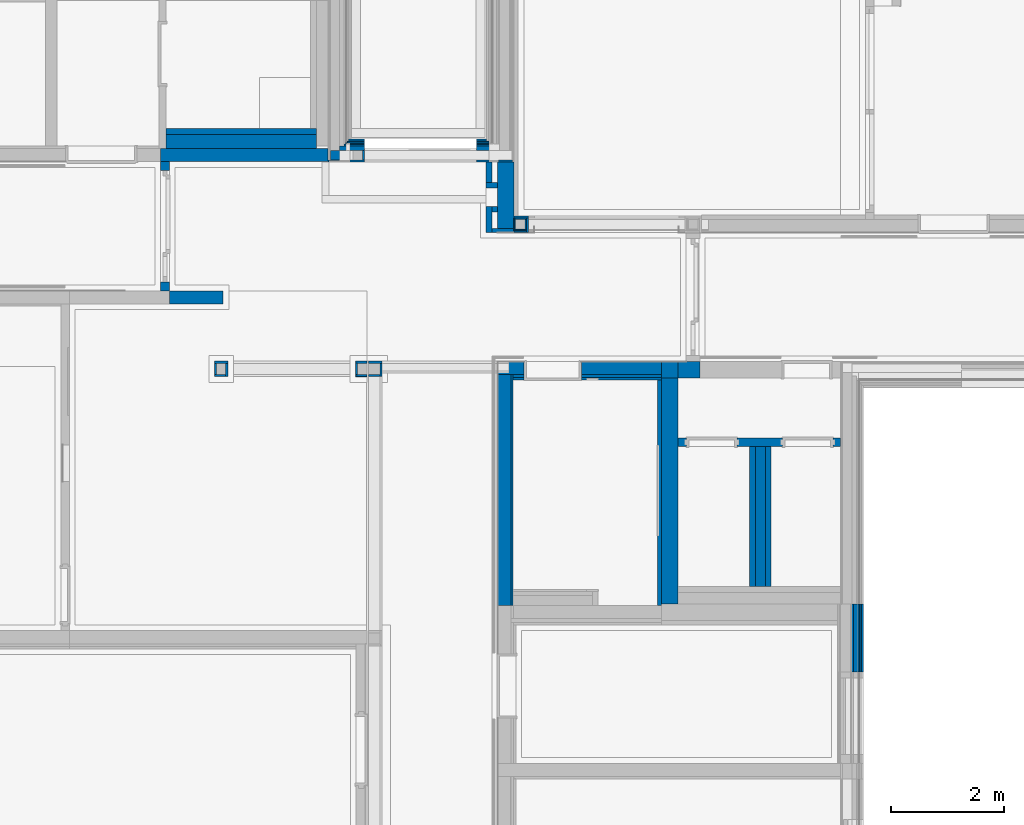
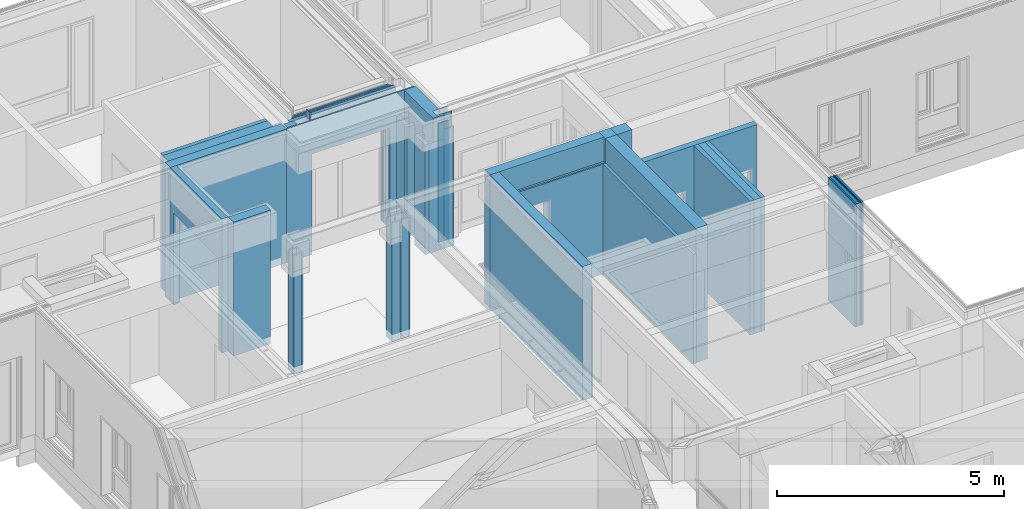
# One storey, part 31 of 207: 55 walls, 13 openings.
"""IFC4 building model written with IfcOpenShell, lengths in metres."""

from ifc_helpers import new_model, entity, si_unit, converted_unit, derived_unit, frame, frame_2d, origin, origin_with_axes, place, context, subcontext, project, spatial, polyline, rectangle, outline, extrude, clip, bounded_halfspace, material, element, save


model = new_model("IFC4")

# Units and contexts
model_context = context("Model", 3, precision=1e-05, world=origin())
body_context = subcontext(model_context, "Body", "Model", "MODEL_VIEW")
ifc_project = project(units=[si_unit("LENGTHUNIT", "METRE"), si_unit("AREAUNIT", "SQUARE_METRE"), si_unit("VOLUMEUNIT", "CUBIC_METRE"), si_unit("MASSUNIT", "GRAM", prefix="KILO"), converted_unit("PLANEANGLEUNIT", "DEGREE", entity("IfcPlaneAngleMeasure", 0.0174532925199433), si_unit("PLANEANGLEUNIT", "RADIAN"), dimensions=[0, 0, 0, 0, 0, 0, 0]), derived_unit("THERMALTRANSMITTANCEUNIT", [(si_unit("POWERUNIT", "WATT"), 1), (si_unit("THERMODYNAMICTEMPERATUREUNIT", "KELVIN"), -1), (si_unit("LENGTHUNIT", "METRE"), -2)]), derived_unit("VOLUMETRICFLOWRATEUNIT", [(si_unit("LENGTHUNIT", "METRE"), 3), (converted_unit("TIMEUNIT", "hour", entity("IfcTimeMeasure", 3600.0), si_unit("TIMEUNIT", "SECOND"), dimensions=[0, 0, 1, 0, 0, 0, 0]), -1), (si_unit("LENGTHUNIT", "METRE"), -1)])], contexts=[model_context])

# Site, building, storey
site_placement = place(None, origin())
site = spatial("IfcSite", under=ifc_project, at=site_placement, Name="Psychiatrie Neubau Wunstorf", CompositionType="ELEMENT")
building_placement = place(site_placement, origin())
building = spatial("IfcBuilding", under=site, at=building_placement, Name="Neubau H2 Stationsgebäude", CompositionType="ELEMENT")
storey_placement = place(building_placement, frame((0.0, 0.0, -0.2)))
storey = spatial("IfcBuildingStorey", under=building, at=storey_placement, Name="H2 Ebene 0", CompositionType="ELEMENT", Elevation=-0.2)

# Wall
ifc_material_1 = material(Name="WA-LB")
wall_1_placement = place(storey_placement, frame((37.8935, 24.1140036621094, 0.5)))
element("IfcWall", 1, at=wall_1_placement, inside=storey, material=ifc_material_1, context=body_context, shape_type="SweptSolid", body=[
    extrude(rectangle(XDim=0.254, YDim=0.036, at=frame_2d((0.127, 0.018), x_axis=(1.0, 0.0))), origin_with_axes(), (0.0, 0.0, 1.0), 3.1),
])

# Wall, opening
ifc_material_2 = material(Name="WA-LB")
wall_2_placement = place(storey_placement, frame((34.889, 24.1140036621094, 0.0)))
wall_2 = element("IfcWall", 2, at=wall_2_placement, inside=storey, material=ifc_material_2, context=body_context, shape_type="SweptSolid", body=[
    extrude(rectangle(XDim=3.0045, YDim=0.036, at=frame_2d((1.50225, 0.018), x_axis=(1.0, 0.0))), origin_with_axes(), (0.0, 0.0, 1.0), 3.6),
])
opening_1_placement = place(wall_2_placement, frame((0.637001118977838, 0.0, 0.0), z_axis=(0.0, 1.0, 0.0), x_axis=(0.0, 0.0, 1.0)))
element("IfcOpeningElement", 3, at=opening_1_placement, cuts=wall_2, Name="Türöffnung", ObjectType="Opening", context=body_context, shape_type="SweptSolid", body=[
    extrude(outline(polyline([(2.7, 1.98299888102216), (2.7, 0.0), (0.0, 0.0), (0.0, 1.98299888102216), (2.7, 1.98299888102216)])), origin_with_axes(), (0.0, 0.0, 1.0), 0.036),
])

ifc_material_3 = material(Name="WA-HD")
wall_3_placement = place(storey_placement, frame((34.925, 24.1500036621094, 0.0)))
wall_3 = element("IfcWall", 4, at=wall_3_placement, inside=storey, material=ifc_material_3, context=body_context, shape_type="Clipping", body=[
    clip(clip(clip(extrude(rectangle(XDim=2.9685, YDim=0.16, at=frame_2d((1.48425, 0.08), x_axis=(1.0, 0.0))), origin_with_axes(), (0.0, 0.0, 1.0), 3.6), bounded_halfspace(frame((0.3275, 0.0799995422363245, 3.2), z_axis=(0.0, 0.0, -1.0), x_axis=(-0.999999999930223, -1.18132561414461e-05, 0.0)), True, origin_with_axes(), polyline([(0.405, 0.16), (0.25, 0.159998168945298), (0.25, 0.0), (0.405, 0.0), (0.405, 0.16)]))), bounded_halfspace(frame((1.78475, 0.0799993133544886, 3.2), z_axis=(0.0, 0.0, -1.0), x_axis=(1.0, 0.0, 0.0)), True, origin_with_axes(), polyline([(0.601, 0.0), (2.9685, 0.0), (2.9685, 0.159998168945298), (0.601, 0.159999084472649), (0.601, 0.0)]))), bounded_halfspace(frame((0.503, 0.08, 0.5), z_axis=(0.0, 0.0, -1.0), x_axis=(-1.0, 0.0, 0.0)), True, origin_with_axes(), polyline([(0.601, 0.16), (0.405, 0.16), (0.405, 0.0), (0.601, 0.0), (0.601, 0.16)]))),
])
opening_2_placement = place(wall_3_placement, frame((0.601001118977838, 0.0, 0.0), z_axis=(0.0, 1.0, 0.0), x_axis=(0.0, 0.0, 1.0)))
element("IfcOpeningElement", 5, at=opening_2_placement, cuts=wall_3, Name="Türöffnung", ObjectType="Opening", context=body_context, shape_type="SweptSolid", body=[
    extrude(outline(polyline([(2.7, 1.98299888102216), (2.7, 0.0), (0.0, 0.0), (0.0, 1.98299888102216), (2.7, 1.98299888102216)])), origin_with_axes(), (0.0, 0.0, 1.0), 0.16),
])

ifc_material_4 = material(Name="WA-DL")
wall_4_placement = place(storey_placement, frame((35.085, 24.3100036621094, 0.0)))
wall_4 = element("IfcWall", 6, at=wall_4_placement, inside=storey, material=ifc_material_4, context=body_context, shape_type="SweptSolid", body=[
    extrude(rectangle(XDim=2.6925, YDim=0.08, at=frame_2d((1.34625, 0.04), x_axis=(1.0, 0.0))), origin_with_axes(), (0.0, 0.0, 1.0), 3.6),
])
opening_3_placement = place(wall_4_placement, frame((0.441001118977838, 0.0, 0.0), z_axis=(0.0, 1.0, 0.0), x_axis=(0.0, 0.0, 1.0)))
element("IfcOpeningElement", 7, at=opening_3_placement, cuts=wall_4, Name="Türöffnung", ObjectType="Opening", context=body_context, shape_type="SweptSolid", body=[
    extrude(outline(polyline([(2.7, 1.98299888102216), (2.7, 0.0), (0.0, 0.0), (0.0, 1.98299888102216), (2.7, 1.98299888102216)])), origin_with_axes(), (0.0, 0.0, 1.0), 0.08),
])

ifc_material_5 = material(Name="WA-TP")
wall_5_placement = place(storey_placement, frame((35.165, 24.3900036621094, 0.0)))
wall_5 = element("IfcWall", 8, at=wall_5_placement, inside=storey, material=ifc_material_5, context=body_context, shape_type="SweptSolid", body=[
    extrude(rectangle(XDim=2.6125, YDim=0.036, at=frame_2d((1.30625, 0.018), x_axis=(1.0, 0.0))), origin_with_axes(), (0.0, 0.0, 1.0), 3.6),
])
opening_4_placement = place(wall_5_placement, frame((0.361001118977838, 0.0, 0.0), z_axis=(0.0, 1.0, 0.0), x_axis=(0.0, 0.0, 1.0)))
element("IfcOpeningElement", 9, at=opening_4_placement, cuts=wall_5, Name="Türöffnung", ObjectType="Opening", context=body_context, shape_type="SweptSolid", body=[
    extrude(outline(polyline([(2.7, 1.98299888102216), (2.7, 0.0), (0.0, 0.0), (0.0, 1.98299888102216), (2.7, 1.98299888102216)])), origin_with_axes(), (0.0, 0.0, 1.0), 0.036),
])

ifc_material_6 = material(Name="WA-KL")
wall_6_placement = place(storey_placement, frame((35.201, 24.4260036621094, 0.0)))
wall_6 = element("IfcWall", 10, at=wall_6_placement, inside=storey, material=ifc_material_6, context=body_context, shape_type="SweptSolid", body=[
    extrude(rectangle(XDim=2.5265, YDim=0.024, at=frame_2d((1.26325, 0.012), x_axis=(1.0, 0.0))), origin_with_axes(), (0.0, 0.0, 1.0), 3.6),
])
opening_5_placement = place(wall_6_placement, frame((0.325001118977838, 0.0, 0.0), z_axis=(0.0, 1.0, 0.0), x_axis=(0.0, 0.0, 1.0)))
element("IfcOpeningElement", 11, at=opening_5_placement, cuts=wall_6, Name="Türöffnung", ObjectType="Opening", context=body_context, shape_type="SweptSolid", body=[
    extrude(outline(polyline([(2.7, 1.98299888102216), (2.7, 0.0), (0.0, 0.0), (0.0, 1.98299888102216), (2.7, 1.98299888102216)])), origin_with_axes(), (0.0, 0.0, 1.0), 0.024),
])

ifc_material_7 = material(Name="WA-TL")
wall_7_placement = place(storey_placement, frame((35.225, 24.4500036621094, 0.0)))
wall_7 = element("IfcWall", 12, at=wall_7_placement, inside=storey, material=ifc_material_7, context=body_context, shape_type="SweptSolid", body=[
    extrude(rectangle(XDim=2.5025, YDim=0.024, at=frame_2d((1.25125, 0.012), x_axis=(1.0, 0.0))), origin_with_axes(), (0.0, 0.0, 1.0), 3.6),
])
opening_6_placement = place(wall_7_placement, frame((0.301001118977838, 0.0, 0.0), z_axis=(0.0, 1.0, 0.0), x_axis=(0.0, 0.0, 1.0)))
element("IfcOpeningElement", 13, at=opening_6_placement, cuts=wall_7, Name="Türöffnung", ObjectType="Opening", context=body_context, shape_type="SweptSolid", body=[
    extrude(outline(polyline([(2.7, 1.98299888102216), (2.7, 0.0), (0.0, 0.0), (0.0, 1.98299888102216), (2.7, 1.98299888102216)])), origin_with_axes(), (0.0, 0.0, 1.0), 0.024),
])

ifc_material_8 = material(Name="WA-HS")
wall_8_placement = place(storey_placement, frame((35.249, 24.4740036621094, 0.0)))
wall_8 = element("IfcWall", 14, at=wall_8_placement, inside=storey, material=ifc_material_8, context=body_context, shape_type="SweptSolid", body=[
    extrude(rectangle(XDim=2.4365, YDim=0.042, at=frame_2d((1.21825, 0.021), x_axis=(1.0, 0.0))), origin_with_axes(), (0.0, 0.0, 1.0), 3.6),
])
opening_7_placement = place(wall_8_placement, frame((0.277001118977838, 0.0, 0.0), z_axis=(0.0, 1.0, 0.0), x_axis=(0.0, 0.0, 1.0)))
element("IfcOpeningElement", 15, at=opening_7_placement, cuts=wall_8, Name="Türöffnung", ObjectType="Opening", context=body_context, shape_type="SweptSolid", body=[
    extrude(outline(polyline([(2.7, 1.98299888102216), (2.7, 0.0), (0.0, 0.0), (0.0, 1.98299888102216), (2.7, 1.98299888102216)])), origin_with_axes(), (0.0, 0.0, 1.0), 0.042),
])

# Walls
ifc_material_9 = material(Name="WI-GKF")
wall_9_placement = place(storey_placement, frame((35.49, 24.3100036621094, 0.5), z_axis=(0.0, 0.0, 1.0), x_axis=(0.0, -1.0, 0.0)))
element("IfcWall", 16, at=wall_9_placement, inside=storey, material=ifc_material_9, context=body_context, shape_type="SweptSolid", body=[
    extrude(rectangle(XDim=0.16, YDim=0.036, at=frame_2d((0.08, 0.018), x_axis=(1.0, 0.0))), origin_with_axes(), (0.0, 0.0, 1.0), 3.3),
])
ifc_material_10 = material(Name="WA-TP")
wall_10_placement = place(storey_placement, frame((44.1330000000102, 16.3005060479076, 0.5), z_axis=(0.0, 0.0, 1.0), x_axis=(0.0, -1.0, 0.0)))
element("IfcWall", 17, at=wall_10_placement, inside=storey, material=ifc_material_10, context=body_context, shape_type="SweptSolid", body=[
    extrude(rectangle(XDim=1.19550635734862, YDim=0.036, at=frame_2d((0.597753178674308, 0.018), x_axis=(1.0, 0.0))), origin_with_axes(), (0.0, 0.0, 1.0), 3.3),
])
ifc_material_11 = material(Name="WA-DL")
wall_11_placement = place(storey_placement, frame((44.1690000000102, 16.3005060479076, 0.5), z_axis=(0.0, 0.0, 1.0), x_axis=(0.0, -1.0, 0.0)))
element("IfcWall", 18, at=wall_11_placement, inside=storey, material=ifc_material_11, context=body_context, shape_type="SweptSolid", body=[
    extrude(rectangle(XDim=1.19550635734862, YDim=0.08, at=frame_2d((0.597753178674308, 0.04), x_axis=(1.0, 0.0))), origin_with_axes(), (0.0, 0.0, 1.0), 3.3),
])
ifc_material_12 = material(Name="WA-KL")
wall_12_placement = place(storey_placement, frame((44.2490000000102, 16.3005060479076, 0.5), z_axis=(0.0, 0.0, 1.0), x_axis=(0.0, -1.0, 0.0)))
element("IfcWall", 19, at=wall_12_placement, inside=storey, material=ifc_material_12, context=body_context, shape_type="SweptSolid", body=[
    extrude(rectangle(XDim=1.19550635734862, YDim=0.025, at=frame_2d((0.597753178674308, 0.0125), x_axis=(1.0, 0.0))), origin_with_axes(), (0.0, 0.0, 1.0), 3.3),
])
ifc_material_13 = material(Name="WA-TL")
wall_13_placement = place(storey_placement, frame((44.2740000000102, 16.3005060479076, 0.5), z_axis=(0.0, 0.0, 1.0), x_axis=(0.0, -1.0, 0.0)))
element("IfcWall", 20, at=wall_13_placement, inside=storey, material=ifc_material_13, context=body_context, shape_type="SweptSolid", body=[
    extrude(rectangle(XDim=1.19550635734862, YDim=0.025, at=frame_2d((0.597753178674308, 0.0125), x_axis=(1.0, 0.0))), origin_with_axes(), (0.0, 0.0, 1.0), 3.3),
])
ifc_material_14 = material(Name="WA-HS")
wall_14_placement = place(storey_placement, frame((44.2990000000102, 16.3005060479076, 0.5), z_axis=(0.0, 0.0, 1.0), x_axis=(0.0, -1.0, 0.0)))
element("IfcWall", 21, at=wall_14_placement, inside=storey, material=ifc_material_14, context=body_context, shape_type="SweptSolid", body=[
    extrude(rectangle(XDim=1.19550635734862, YDim=0.042, at=frame_2d((0.597753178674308, 0.021), x_axis=(1.0, 0.0))), origin_with_axes(), (0.0, 0.0, 1.0), 3.3),
])

# Wall, openings
ifc_material_15 = material(Name="WI-LB")
wall_15_placement = place(storey_placement, frame((43.9390000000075, 19.2350060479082, 0.0), z_axis=(0.0, 0.0, 1.0), x_axis=(-1.0, 0.0, 0.0)))
wall_15 = element("IfcWall", 22, at=wall_15_placement, inside=storey, material=ifc_material_15, context=body_context, shape_type="SweptSolid", body=[
    extrude(rectangle(XDim=2.87, YDim=0.15, at=frame_2d((1.435, 0.075), x_axis=(1.0, 0.0))), origin_with_axes(), (0.0, 0.0, 1.0), 3.6),
])
opening_8_placement = place(wall_15_placement, frame((2.72, 0.15, 0.0), z_axis=(0.0, -1.0, 0.0), x_axis=(0.0, 0.0, 1.0)))
element("IfcOpeningElement", 23, at=opening_8_placement, cuts=wall_15, Name="Türöffnung", ObjectType="Opening", context=body_context, shape_type="SweptSolid", body=[
    extrude(outline(polyline([(2.46, 0.885), (2.46, 0.0), (0.0, 0.0), (0.0, 0.885), (2.46, 0.885)])), origin_with_axes(), (0.0, 0.0, 1.0), 0.15),
])
opening_9_placement = place(wall_15_placement, frame((1.024, 0.15, 0.0), z_axis=(0.0, -1.0, 0.0), x_axis=(0.0, 0.0, 1.0)))
element("IfcOpeningElement", 24, at=opening_9_placement, cuts=wall_15, Name="Türöffnung", ObjectType="Opening", context=body_context, shape_type="SweptSolid", body=[
    extrude(outline(polyline([(2.46, 0.885), (2.46, 0.0), (0.0, 0.0), (0.0, 0.885), (2.46, 0.885)])), origin_with_axes(), (0.0, 0.0, 1.0), 0.15),
])

# Walls
ifc_material_16 = material(Name="WI-IW")
wall_16_placement = place(storey_placement, frame((42.3325000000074, 19.0850060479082, 0.0), z_axis=(0.0, 0.0, 1.0), x_axis=(0.0, -1.0, 0.0)))
element("IfcWall", 25, at=wall_16_placement, inside=storey, material=ifc_material_16, context=body_context, shape_type="SweptSolid", body=[
    extrude(rectangle(XDim=2.4745, YDim=0.1, at=frame_2d((1.23725, 0.05), x_axis=(1.0, 0.0))), origin_with_axes(), (0.0, 0.0, 1.0), 3.6),
])
ifc_material_17 = material(Name="Installationsraum")
wall_17_placement = place(storey_placement, frame((42.4325000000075, 19.0850060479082, 0.0), z_axis=(0.0, 0.0, 1.0), x_axis=(0.0, -1.0, 0.0)))
element("IfcWall", 26, at=wall_17_placement, inside=storey, material=ifc_material_17, context=body_context, shape_type="SweptSolid", body=[
    extrude(rectangle(XDim=2.4745, YDim=0.175, at=frame_2d((1.23725, 0.0875), x_axis=(1.0, 0.0))), origin_with_axes(), (0.0, 0.0, 1.0), 3.6),
])
ifc_material_18 = material(Name="WI-IW")
wall_18_placement = place(storey_placement, frame((42.6075000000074, 19.0850060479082, 0.0), z_axis=(0.0, 0.0, 1.0), x_axis=(0.0, -1.0, 0.0)))
element("IfcWall", 27, at=wall_18_placement, inside=storey, material=ifc_material_18, context=body_context, shape_type="SweptSolid", body=[
    extrude(rectangle(XDim=2.4745, YDim=0.1, at=frame_2d((1.23725, 0.05), x_axis=(1.0, 0.0))), origin_with_axes(), (0.0, 0.0, 1.0), 3.6),
])
ifc_material_19 = material(Name="WI-HW 60")
wall_19_placement = place(storey_placement, frame((37.879, 24.1140036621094, 0.0), z_axis=(0.0, 0.0, 1.0), x_axis=(0.0, -1.0, 0.0)))
element("IfcWall", 28, at=wall_19_placement, inside=storey, material=ifc_material_19, context=body_context, shape_type="Clipping", body=[
    clip(clip(extrude(rectangle(XDim=1.25000462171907, YDim=0.29, at=frame_2d((0.625002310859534, 0.145), x_axis=(1.0, 0.0))), origin_with_axes(), (0.0, 0.0, 1.0), 3.6), bounded_halfspace(frame((1.2125046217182, 0.144999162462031, 2.95), z_axis=(0.0, 0.0, 1.0), x_axis=(-2.40860677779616e-12, 1.0, 0.0)), True, origin_with_axes(), polyline([(1.25000462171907, 0.0), (1.25000462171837, 0.289998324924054), (1.17500462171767, 0.289998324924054), (1.17500462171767, 0.0), (1.25000462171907, 0.0)]))), bounded_halfspace(frame((1.10500455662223, 0.207998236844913, 3.3), z_axis=(0.0, 0.0, -1.0), x_axis=(0.999999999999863, -5.23530818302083e-07, 0.0)), True, origin_with_axes(), polyline([(1.015004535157, 0.125996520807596), (1.19500453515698, 0.125996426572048), (1.1950046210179, 0.29), (1.015004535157, 0.29), (1.015004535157, 0.125996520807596)]))),
])
ifc_material_20 = material(Name="WI-LB")
wall_20_placement = place(storey_placement, frame((38.154, 16.2820060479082, 0.0), z_axis=(0.0, 0.0, 1.0), x_axis=(0.0, 1.0, 0.0)))
element("IfcWall", 29, at=wall_20_placement, inside=storey, material=ifc_material_20, context=body_context, shape_type="SweptSolid", body=[
    extrude(rectangle(XDim=4.07199197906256, YDim=0.0395, at=frame_2d((2.03599598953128, 0.01975), x_axis=(1.0, 0.0))), origin_with_axes(), (0.0, 0.0, 1.0), 2.95),
])
ifc_material_21 = material(Name="WI-HW 60")
wall_21_placement = place(storey_placement, frame((38.1145, 16.2820060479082, 0.0), z_axis=(0.0, 0.0, 1.0), x_axis=(0.0, 1.0, 0.0)))
element("IfcWall", 30, at=wall_21_placement, inside=storey, material=ifc_material_21, context=body_context, shape_type="SweptSolid", body=[
    extrude(rectangle(XDim=4.07199197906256, YDim=0.232, at=frame_2d((2.03599598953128, 0.116), x_axis=(1.0, 0.0))), origin_with_axes(), (0.0, 0.0, 1.0), 3.6),
])
ifc_material_22 = material(Name="WI-HW 60")
wall_22_placement = place(storey_placement, frame((38.169, 23.1179923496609, 0.0), z_axis=(0.0, 0.0, 1.0), x_axis=(0.0, -1.0, 0.0)))
element("IfcWall", 31, at=wall_22_placement, inside=storey, material=ifc_material_22, context=body_context, shape_type="Clipping", body=[
    clip(extrude(outline(polyline([(-0.217999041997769, 0.0), (0.0, 0.0), (0.0, 0.019), (-0.218000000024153, 0.019), (-0.217999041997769, 0.0)])), frame((0.217999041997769, 0.0, 0.0), z_axis=(0.0, 0.0, 1.0), x_axis=(1.0, 0.0, 0.0)), (0.0, 0.0, 1.0), 3.6), bounded_halfspace(frame((0.108993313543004, 0.0095, 3.3), z_axis=(0.0, 0.0, -1.0), x_axis=(0.0, -1.0, 0.0)), True, origin_with_axes(), polyline([(0.0189933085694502, 0.019), (0.0189933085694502, 0.0), (0.198993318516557, 0.0), (0.198993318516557, 0.019), (0.0189933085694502, 0.019)]))),
])
ifc_material_23 = material(Name="WI-LB")
wall_23_placement = place(storey_placement, frame((37.779, 22.8639990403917, 0.0)))
element("IfcWall", 32, at=wall_23_placement, inside=storey, material=ifc_material_23, context=body_context, shape_type="SweptSolid", body=[
    extrude(rectangle(XDim=0.389996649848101, YDim=0.075, at=frame_2d((0.19499832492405, 0.0375), x_axis=(1.0, 0.0))), origin_with_axes(), (0.0, 0.0, 1.0), 2.95),
])
ifc_material_24 = material(Name="WI-HW 60")
wall_24_placement = place(storey_placement, frame((32.083, 21.604, 0.0), z_axis=(0.0, 0.0, 1.0), x_axis=(1.0, 7.65890275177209e-15, 0.0)))
element("IfcWall", 33, at=wall_24_placement, inside=storey, material=ifc_material_24, context=body_context, shape_type="SweptSolid", body=[
    extrude(rectangle(XDim=0.949999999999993, YDim=0.232, at=frame_2d((0.474999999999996, 0.116), x_axis=(1.0, 0.0))), origin_with_axes(), (0.0, 0.0, 1.0), 3.6),
])

# Wall, opening
ifc_material_25 = material(Name="WI-LB")
wall_25_placement = place(storey_placement, frame((32.083, 21.8360000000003, 0.0), z_axis=(0.0, 0.0, 1.0), x_axis=(0.0, 1.0, 0.0)))
wall_25 = element("IfcWall", 34, at=wall_25_placement, inside=storey, material=ifc_material_25, context=body_context, shape_type="SweptSolid", body=[
    extrude(rectangle(XDim=2.28150000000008, YDim=0.155, at=frame_2d((1.14075000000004, 0.0775), x_axis=(1.0, 0.0))), origin_with_axes(), (0.0, 0.0, 1.0), 3.6),
])
opening_10_placement = place(wall_25_placement, frame((2.12650000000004, 0.155, 0.0), z_axis=(0.0, -1.0, 0.0), x_axis=(0.0, 0.0, 1.0)))
element("IfcOpeningElement", 35, at=opening_10_placement, cuts=wall_25, Name="Türöffnung", ObjectType="Opening", context=body_context, shape_type="SweptSolid", body=[
    extrude(outline(polyline([(2.46, 1.9715), (2.46, 0.0), (0.0, 0.0), (0.0, 1.9715), (2.46, 1.9715)])), origin_with_axes(), (0.0, 0.0, 1.0), 0.155),
])

# Walls
ifc_material_26 = material(Name="WI-HW 60")
wall_26_placement = place(storey_placement, frame((34.889, 24.3495, 0.0), z_axis=(0.0, 0.0, 1.0), x_axis=(-1.0, 2.82585317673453e-14, 0.0)))
element("IfcWall", 36, at=wall_26_placement, inside=storey, material=ifc_material_26, context=body_context, shape_type="SweptSolid", body=[
    extrude(rectangle(XDim=2.961, YDim=0.232000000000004, at=frame_2d((1.4805, 0.116000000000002), x_axis=(1.0, 0.0))), origin_with_axes(), (0.0, 0.0, 1.0), 3.6),
])
ifc_material_27 = material(Name="WI-LB")
wall_27_placement = place(storey_placement, frame((37.679, 23.3264990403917, 0.0), z_axis=(0.0, 0.0, 1.0), x_axis=(0.0, -1.0, 0.0)))
element("IfcWall", 37, at=wall_27_placement, inside=storey, material=ifc_material_27, context=body_context, shape_type="SweptSolid", body=[
    extrude(rectangle(XDim=0.4625, YDim=0.1, at=frame_2d((0.23125, 0.05), x_axis=(1.0, 0.0))), origin_with_axes(), (0.0, 0.0, 1.0), 2.95),
])
ifc_material_28 = material(Name="WI-LB")
wall_28_placement = place(storey_placement, frame((37.879, 23.3264990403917, 0.0), z_axis=(0.0, 0.0, 1.0), x_axis=(-1.0, 0.0, 0.0)))
element("IfcWall", 38, at=wall_28_placement, inside=storey, material=ifc_material_28, context=body_context, shape_type="SweptSolid", body=[
    extrude(rectangle(XDim=0.1, YDim=0.1, at=frame_2d((0.05, 0.05), x_axis=(1.0, 0.0))), origin_with_axes(), (0.0, 0.0, 1.0), 2.95),
])
ifc_material_29 = material(Name="WI-LB")
wall_29_placement = place(storey_placement, frame((37.679, 23.6515036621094, 0.0)))
element("IfcWall", 39, at=wall_29_placement, inside=storey, material=ifc_material_29, context=body_context, shape_type="SweptSolid", body=[
    extrude(rectangle(XDim=0.2, YDim=0.1, at=frame_2d((0.1, 0.05), x_axis=(1.0, 0.0))), origin_with_axes(), (0.0, 0.0, 1.0), 2.95),
])
ifc_material_30 = material(Name="WI-LB")
wall_30_placement = place(storey_placement, frame((37.679, 24.1140036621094, 0.0), z_axis=(0.0, 0.0, 1.0), x_axis=(0.0, -1.0, 0.0)))
element("IfcWall", 40, at=wall_30_placement, inside=storey, material=ifc_material_30, context=body_context, shape_type="SweptSolid", body=[
    extrude(rectangle(XDim=0.3625, YDim=0.1, at=frame_2d((0.18125, 0.05), x_axis=(1.0, 0.0))), origin_with_axes(), (0.0, 0.0, 1.0), 2.95),
])
ifc_material_31 = material(Name="BS Beplankung")
wall_31_placement = place(storey_placement, frame((35.3739975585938, 20.3199973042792, 0.0)))
element("IfcWall", 41, at=wall_31_placement, inside=storey, material=ifc_material_31, context=body_context, shape_type="SweptSolid", body=[
    extrude(outline(polyline([(0.0, 0.0), (0.196, 0.0), (0.196, 0.036), (0.036, 0.036), (0.036, 0.0309999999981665), (0.0, 0.0309999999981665), (0.0, 0.0)])), origin_with_axes(), (0.0, 0.0, 1.0), 3.2),
])
ifc_material_32 = material(Name="BS Beplankung")
wall_32_placement = place(storey_placement, frame((33.1149956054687, 20.5919885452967, 0.0), z_axis=(0.0, 0.0, 1.0), x_axis=(-1.0, 0.0, 0.0)))
element("IfcWall", 42, at=wall_32_placement, inside=storey, material=ifc_material_32, context=body_context, shape_type="SweptSolid", body=[
    extrude(outline(polyline([(-0.232, -0.036), (0.0, -0.036), (0.0, -1.99931718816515e-06), (-0.036, -1.689078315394e-06), (-0.196, -1.689078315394e-06), (-0.196, 0.0), (-0.232, 0.0), (-0.232, -0.036)])), frame((0.232, 0.036, 0.0), z_axis=(0.0, 0.0, 1.0), x_axis=(1.0, 0.0, 0.0)), (0.0, 0.0, 1.0), 3.2),
])
ifc_material_33 = material(Name="BS Beplankung")
wall_33_placement = place(storey_placement, frame((35.6, 20.3199956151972, 0.0)))
element("IfcWall", 43, at=wall_33_placement, inside=storey, material=ifc_material_33, context=body_context, shape_type="SweptSolid", body=[
    extrude(rectangle(XDim=0.2, YDim=0.036, at=frame_2d((0.1, 0.018), x_axis=(1.0, 0.0))), origin_with_axes(), (0.0, 0.0, 1.0), 3.2),
])
ifc_material_34 = material(Name="BS Beplankung")
wall_34_placement = place(storey_placement, frame((35.3739975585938, 20.5609973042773, 0.0), z_axis=(0.0, 0.0, 1.0), x_axis=(0.0, -1.0, 0.0)))
element("IfcWall", 44, at=wall_34_placement, inside=storey, material=ifc_material_34, context=body_context, shape_type="SweptSolid", body=[
    extrude(rectangle(XDim=0.21, YDim=0.036, at=frame_2d((0.105, 0.018), x_axis=(1.0, 0.0))), origin_with_axes(), (0.0, 0.0, 1.0), 3.2),
])
ifc_material_35 = material(Name="BS Beplankung")
wall_35_placement = place(storey_placement, frame((33.1149956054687, 20.3199885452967, 0.0), z_axis=(0.0, 0.0, 1.0), x_axis=(0.0, 1.0, 0.0)))
element("IfcWall", 45, at=wall_35_placement, inside=storey, material=ifc_material_35, context=body_context, shape_type="SweptSolid", body=[
    extrude(rectangle(XDim=0.236, YDim=0.036, at=frame_2d((0.118, 0.018), x_axis=(1.0, 0.0))), origin_with_axes(), (0.0, 0.0, 1.0), 3.2),
])
ifc_material_36 = material(Name="BS Beplankung")
wall_36_placement = place(storey_placement, frame((35.5699975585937, 20.5919973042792, 0.0), z_axis=(0.0, 0.0, 1.0), x_axis=(-1.0, 0.0, 0.0)))
element("IfcWall", 46, at=wall_36_placement, inside=storey, material=ifc_material_36, context=body_context, shape_type="SweptSolid", body=[
    extrude(outline(polyline([(-0.196, -0.036), (0.0, -0.036), (0.0, -0.00499999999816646), (-0.036, -0.00499999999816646), (-0.036, 0.0), (-0.196, 0.0), (-0.196, -0.036)])), frame((0.196, 0.036, 0.0), z_axis=(0.0, 0.0, 1.0), x_axis=(1.0, 0.0, 0.0)), (0.0, 0.0, 1.0), 3.2),
])
ifc_material_37 = material(Name="BS Beplankung")
wall_37_placement = place(storey_placement, frame((32.8829956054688, 20.319990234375, 0.0)))
element("IfcWall", 47, at=wall_37_placement, inside=storey, material=ifc_material_37, context=body_context, shape_type="SweptSolid", body=[
    extrude(rectangle(XDim=0.196, YDim=0.036, at=frame_2d((0.098, 0.018), x_axis=(1.0, 0.0))), origin_with_axes(), (0.0, 0.0, 1.0), 3.2),
])
ifc_material_38 = material(Name="BS Beplankung")
wall_38_placement = place(storey_placement, frame((32.8829956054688, 20.5559905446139, 0.0), z_axis=(0.0, 0.0, 1.0), x_axis=(0.0, -1.0, 0.0)))
element("IfcWall", 48, at=wall_38_placement, inside=storey, material=ifc_material_38, context=body_context, shape_type="SweptSolid", body=[
    extrude(rectangle(XDim=0.200000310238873, YDim=0.036, at=frame_2d((0.100000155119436, 0.018), x_axis=(1.0, 0.0))), origin_with_axes(), (0.0, 0.0, 1.0), 3.2),
])
ifc_material_39 = material(Name="BS Beplankung")
wall_39_placement = place(storey_placement, frame((35.836, 20.3199956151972, 0.0), z_axis=(0.0, 0.0, 1.0), x_axis=(0.0, 1.0, 0.0)))
element("IfcWall", 49, at=wall_39_placement, inside=storey, material=ifc_material_39, context=body_context, shape_type="SweptSolid", body=[
    extrude(rectangle(XDim=0.236, YDim=0.036, at=frame_2d((0.118, 0.018), x_axis=(1.0, 0.0))), origin_with_axes(), (0.0, 0.0, 1.0), 3.2),
])
ifc_material_40 = material(Name="BS Beplankung")
wall_40_placement = place(storey_placement, frame((35.836, 20.5919956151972, 0.0), z_axis=(0.0, 0.0, 1.0), x_axis=(-1.0, 0.0, 0.0)))
element("IfcWall", 50, at=wall_40_placement, inside=storey, material=ifc_material_40, context=body_context, shape_type="SweptSolid", body=[
    extrude(rectangle(XDim=0.236, YDim=0.036, at=frame_2d((0.118, 0.018), x_axis=(1.0, 0.0))), origin_with_axes(), (0.0, 0.0, 1.0), 3.2),
])
ifc_material_41 = material(Name="WI-IW")
wall_41_placement = place(storey_placement, frame((40.7040000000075, 20.2644980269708, 0.0), z_axis=(0.0, 0.0, 1.0), x_axis=(0.0, -1.0, 0.0)))
element("IfcWall", 51, at=wall_41_placement, inside=storey, material=ifc_material_41, context=body_context, shape_type="SweptSolid", body=[
    extrude(rectangle(XDim=3.98249197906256, YDim=0.075, at=frame_2d((1.99124598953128, 0.0375), x_axis=(1.0, 0.0))), origin_with_axes(), (0.0, 0.0, 1.0), 2.95),
])
ifc_material_42 = material(Name="WI-IW")
wall_42_placement = place(storey_placement, frame((34.679, 24.6995, 0.0), z_axis=(0.0, 0.0, 1.0), x_axis=(-1.0, 0.0, 0.0)))
element("IfcWall", 52, at=wall_42_placement, inside=storey, material=ifc_material_42, context=body_context, shape_type="SweptSolid", body=[
    extrude(rectangle(XDim=2.656, YDim=0.1, at=frame_2d((1.328, 0.05), x_axis=(1.0, 0.0))), origin_with_axes(), (0.0, 0.0, 1.0), 3.6),
])
ifc_material_43 = material(Name="Installationsraum")
wall_43_placement = place(storey_placement, frame((34.679, 24.5995, 0.0), z_axis=(0.0, 0.0, 1.0), x_axis=(-1.0, 0.0, 0.0)))
element("IfcWall", 53, at=wall_43_placement, inside=storey, material=ifc_material_43, context=body_context, shape_type="SweptSolid", body=[
    extrude(rectangle(XDim=2.656, YDim=0.25, at=frame_2d((1.328, 0.125), x_axis=(1.0, 0.0))), origin_with_axes(), (0.0, 0.0, 1.0), 3.6),
])
ifc_material_44 = material(Name="WI-GKF")
wall_44_placement = place(storey_placement, frame((38.423, 23.1539933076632, 0.0), z_axis=(0.0, 0.0, 1.0), x_axis=(-1.0, 0.0, 0.0)))
element("IfcWall", 54, at=wall_44_placement, inside=storey, material=ifc_material_44, context=body_context, shape_type="SweptSolid", body=[
    extrude(rectangle(XDim=0.254, YDim=0.036, at=frame_2d((0.127, 0.018), x_axis=(1.0, 0.0))), origin_with_axes(), (0.0, 0.0, 1.0), 3.2),
])
ifc_material_45 = material(Name="WI-HW 60")
wall_45_placement = place(storey_placement, frame((38.387, 23.1179933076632, 0.0), z_axis=(0.0, 0.0, 1.0), x_axis=(-1.0, 0.0, 0.0)))
element("IfcWall", 55, at=wall_45_placement, inside=storey, material=ifc_material_45, context=body_context, shape_type="SweptSolid", body=[
    extrude(rectangle(XDim=0.199, YDim=0.019, at=frame_2d((0.0995, 0.0095), x_axis=(1.0, 0.0))), origin_with_axes(), (0.0, 0.0, 1.0), 3.6),
])
ifc_material_46 = material(Name="WI-GKF")
wall_46_placement = place(storey_placement, frame((38.423, 22.8639933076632, 0.0), z_axis=(0.0, 0.0, 1.0), x_axis=(0.0, 1.0, 0.0)))
element("IfcWall", 56, at=wall_46_placement, inside=storey, material=ifc_material_46, context=body_context, shape_type="SweptSolid", body=[
    extrude(rectangle(XDim=0.254, YDim=0.036, at=frame_2d((0.127, 0.018), x_axis=(1.0, 0.0))), origin_with_axes(), (0.0, 0.0, 1.0), 3.2),
])
ifc_material_47 = material(Name="WI-HW 60")
wall_47_placement = place(storey_placement, frame((38.387, 22.8999933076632, 0.0), z_axis=(0.0, 0.0, 1.0), x_axis=(0.0, 1.0, 0.0)))
element("IfcWall", 57, at=wall_47_placement, inside=storey, material=ifc_material_47, context=body_context, shape_type="Clipping", body=[
    clip(extrude(rectangle(XDim=0.199, YDim=0.019, at=frame_2d((0.0995, 0.0095), x_axis=(1.0, 0.0))), origin_with_axes(), (0.0, 0.0, 1.0), 3.6), bounded_halfspace(frame((0.109002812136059, 0.0095, 3.3), z_axis=(0.0, 0.0, -1.0), x_axis=(-5.23530807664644e-07, -0.999999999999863, 0.0)), True, origin_with_axes(), polyline([(0.0190056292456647, 0.019), (0.0190056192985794, 0.0), (0.199, 0.0), (0.199, 0.019), (0.0190056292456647, 0.019)]))),
])
ifc_material_48 = material(Name="WI-GKF")
wall_48_placement = place(storey_placement, frame((38.169, 22.8639933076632, 0.0)))
element("IfcWall", 58, at=wall_48_placement, inside=storey, material=ifc_material_48, context=body_context, shape_type="SweptSolid", body=[
    extrude(rectangle(XDim=0.218, YDim=0.036, at=frame_2d((0.109, 0.018), x_axis=(1.0, 0.0))), origin_with_axes(), (0.0, 0.0, 1.0), 3.2),
])
ifc_material_49 = material(Name="WI-HW 60")
wall_49_placement = place(storey_placement, frame((38.188, 22.8999933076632, 0.0)))
element("IfcWall", 59, at=wall_49_placement, inside=storey, material=ifc_material_49, context=body_context, shape_type="SweptSolid", body=[
    extrude(rectangle(XDim=0.18, YDim=0.019, at=frame_2d((0.09, 0.0095), x_axis=(1.0, 0.0))), origin_with_axes(), (0.0, 0.0, 1.0), 3.6),
])
ifc_material_50 = material(Name="WI-HW 60")
wall_50_placement = place(storey_placement, frame((40.7790000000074, 20.2959980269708, 0.0), z_axis=(0.0, 0.0, 1.0), x_axis=(0.0, -1.0, 0.0)))
element("IfcWall", 60, at=wall_50_placement, inside=storey, material=ifc_material_50, context=body_context, shape_type="SweptSolid", body=[
    extrude(rectangle(XDim=3.99549197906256, YDim=0.29, at=frame_2d((1.99774598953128, 0.145), x_axis=(1.0, 0.0))), origin_with_axes(), (0.0, 0.0, 1.0), 3.6),
])
ifc_material_51 = material(Name="WI-HW 60")
wall_51_placement = place(storey_placement, frame((41.0690000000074, 20.2959980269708, 0.0)))
element("IfcWall", 61, at=wall_51_placement, inside=storey, material=ifc_material_51, context=body_context, shape_type="SweptSolid", body=[
    extrude(rectangle(XDim=0.388999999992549, YDim=0.29, at=frame_2d((0.194499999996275, 0.145), x_axis=(1.0, 0.0))), origin_with_axes(), (0.0, 0.0, 1.0), 3.6),
])
ifc_material_52 = material(Name="WI-HW 60")
wall_52_placement = place(storey_placement, frame((40.7790000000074, 20.2959980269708, 0.0)))
element("IfcWall", 62, at=wall_52_placement, inside=storey, material=ifc_material_52, context=body_context, shape_type="SweptSolid", body=[
    extrude(rectangle(XDim=0.29, YDim=0.29, at=frame_2d((0.145, 0.145), x_axis=(1.0, 0.0))), origin_with_axes(), (0.0, 0.0, 1.0), 3.6),
])

# Wall, opening
ifc_material_53 = material(Name="WI-LB")
wall_53_placement = place(storey_placement, frame((38.154, 20.2644980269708, 0.0)))
wall_53 = element("IfcWall", 63, at=wall_53_placement, inside=storey, material=ifc_material_53, context=body_context, shape_type="SweptSolid", body=[
    extrude(rectangle(XDim=2.62500000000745, YDim=0.0395, at=frame_2d((1.31250000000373, 0.01975), x_axis=(1.0, 0.0))), origin_with_axes(), (0.0, 0.0, 1.0), 2.95),
])
opening_11_placement = place(wall_53_placement, frame((0.196000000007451, 0.0, 0.0), z_axis=(0.0, 1.0, 0.0), x_axis=(0.0, 0.0, 1.0)))
element("IfcOpeningElement", 64, at=opening_11_placement, cuts=wall_53, Name="Türöffnung", ObjectType="Opening", context=body_context, shape_type="SweptSolid", body=[
    extrude(outline(polyline([(2.46, 1.01), (2.46, 0.0), (0.0, 0.0), (0.0, 1.01), (2.46, 1.01)])), origin_with_axes(), (0.0, 0.0, 1.0), 0.0395),
])

ifc_material_54 = material(Name="Installationsraum")
wall_54_placement = place(storey_placement, frame((38.154, 20.3039980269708, 0.0)))
wall_54 = element("IfcWall", 65, at=wall_54_placement, inside=storey, material=ifc_material_54, context=body_context, shape_type="SweptSolid", body=[
    extrude(rectangle(XDim=2.62500000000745, YDim=0.05, at=frame_2d((1.31250000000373, 0.025), x_axis=(1.0, 0.0))), origin_with_axes(), (0.0, 0.0, 1.0), 2.95),
])
opening_12_placement = place(wall_54_placement, frame((0.196000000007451, 0.0, 0.0), z_axis=(0.0, 1.0, 0.0), x_axis=(0.0, 0.0, 1.0)))
element("IfcOpeningElement", 66, at=opening_12_placement, cuts=wall_54, Name="Türöffnung", ObjectType="Opening", context=body_context, shape_type="SweptSolid", body=[
    extrude(outline(polyline([(2.46, 1.01), (2.46, 0.0), (0.0, 0.0), (0.0, 1.01), (2.46, 1.01)])), origin_with_axes(), (0.0, 0.0, 1.0), 0.05),
])

ifc_material_55 = material(Name="WI-HW 60")
wall_55_placement = place(storey_placement, frame((37.8825, 20.3539980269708, 0.0)))
wall_55 = element("IfcWall", 67, at=wall_55_placement, inside=storey, material=ifc_material_55, context=body_context, shape_type="SweptSolid", body=[
    extrude(rectangle(XDim=2.89650000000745, YDim=0.232, at=frame_2d((1.44825000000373, 0.116), x_axis=(1.0, 0.0))), origin_with_axes(), (0.0, 0.0, 1.0), 3.6),
])
opening_13_placement = place(wall_55_placement, frame((0.467500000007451, 0.0, 0.0), z_axis=(0.0, 1.0, 0.0), x_axis=(0.0, 0.0, 1.0)))
element("IfcOpeningElement", 68, at=opening_13_placement, cuts=wall_55, Name="Türöffnung", ObjectType="Opening", context=body_context, shape_type="SweptSolid", body=[
    extrude(outline(polyline([(2.46, 1.01), (2.46, 0.0), (0.0, 0.0), (0.0, 1.01), (2.46, 1.01)])), origin_with_axes(), (0.0, 0.0, 1.0), 0.232),
])

save(model, "model.ifc")
